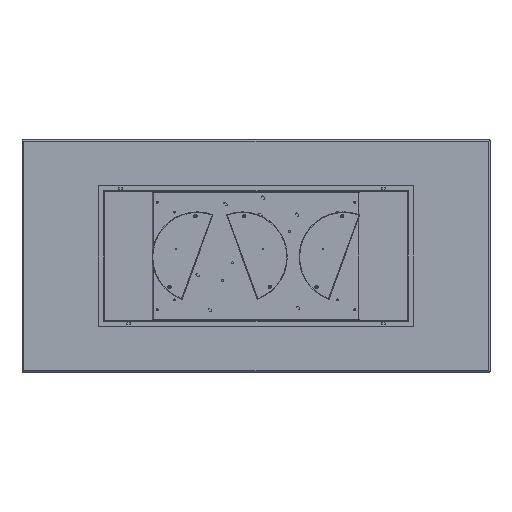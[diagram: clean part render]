
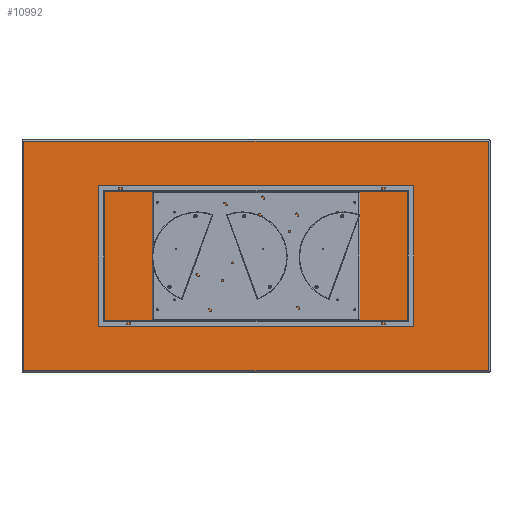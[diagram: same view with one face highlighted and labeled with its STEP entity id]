
A CAD part, front view. The second image highlights one B-rep face of the part: STEP entity #10992.
In plain terms, the highlighted planar face has unit normal (0, -1, 0).
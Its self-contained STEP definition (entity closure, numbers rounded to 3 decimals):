
#354 = VECTOR ( 'NONE', #6248, 1000. ) ;
#504 = CARTESIAN_POINT ( 'NONE',  ( 0., 0., 0. ) ) ;
#912 = DIRECTION ( 'NONE',  ( -1., 0., 0. ) ) ;
#1442 = EDGE_LOOP ( 'NONE', ( #2548, #4372, #6419, #2682 ) ) ;
#1450 = LINE ( 'NONE', #13385, #3836 ) ;
#1799 = LINE ( 'NONE', #7708, #354 ) ;
#2065 = DIRECTION ( 'NONE',  ( 0., 1., 0. ) ) ;
#2548 = ORIENTED_EDGE ( 'NONE', *, *, #8249, .T. ) ;
#2682 = ORIENTED_EDGE ( 'NONE', *, *, #13226, .T. ) ;
#3836 = VECTOR ( 'NONE', #6292, 1000. ) ;
#3935 = LINE ( 'NONE', #9886, #10520 ) ;
#4372 = ORIENTED_EDGE ( 'NONE', *, *, #9394, .T. ) ;
#4667 = FACE_OUTER_BOUND ( 'NONE', #1442, .T. ) ;
#5885 = VECTOR ( 'NONE', #912, 1000. ) ;
#6130 = AXIS2_PLACEMENT_3D ( 'NONE', #504, #2065, #7976 ) ;
#6248 = DIRECTION ( 'NONE',  ( 0., 0., -1. ) ) ;
#6292 = DIRECTION ( 'NONE',  ( 0., 0., 1. ) ) ;
#6419 = ORIENTED_EDGE ( 'NONE', *, *, #6585, .T. ) ;
#6585 = EDGE_CURVE ( 'NONE', #11687, #8298, #1799, .T. ) ;
#7708 = CARTESIAN_POINT ( 'NONE',  ( -1187., 0., 0. ) ) ;
#7976 = DIRECTION ( 'NONE',  ( 0., 0., 1. ) ) ;
#8192 = LINE ( 'NONE', #11404, #5885 ) ;
#8249 = EDGE_CURVE ( 'NONE', #10901, #19175, #1450, .T. ) ;
#8298 = VERTEX_POINT ( 'NONE', #13859 ) ;
#9061 = CARTESIAN_POINT ( 'NONE',  ( 1187., 0., -587. ) ) ;
#9394 = EDGE_CURVE ( 'NONE', #19175, #11687, #8192, .T. ) ;
#9862 = CARTESIAN_POINT ( 'NONE',  ( -1187., 0., 587. ) ) ;
#9886 = CARTESIAN_POINT ( 'NONE',  ( 0., 0., -587. ) ) ;
#10520 = VECTOR ( 'NONE', #15776, 1000. ) ;
#10901 = VERTEX_POINT ( 'NONE', #9061 ) ;
#10992 = ADVANCED_FACE ( 'NONE', ( #4667 ), #15344, .F. ) ;
#11404 = CARTESIAN_POINT ( 'NONE',  ( 0., 0., 587. ) ) ;
#11687 = VERTEX_POINT ( 'NONE', #9862 ) ;
#13226 = EDGE_CURVE ( 'NONE', #8298, #10901, #3935, .T. ) ;
#13385 = CARTESIAN_POINT ( 'NONE',  ( 1187., 0., 0. ) ) ;
#13859 = CARTESIAN_POINT ( 'NONE',  ( -1187., 0., -587. ) ) ;
#15344 = PLANE ( 'NONE',  #6130 ) ;
#15776 = DIRECTION ( 'NONE',  ( 1., 0., 0. ) ) ;
#17455 = CARTESIAN_POINT ( 'NONE',  ( 1187., 0., 587. ) ) ;
#19175 = VERTEX_POINT ( 'NONE', #17455 ) ;
